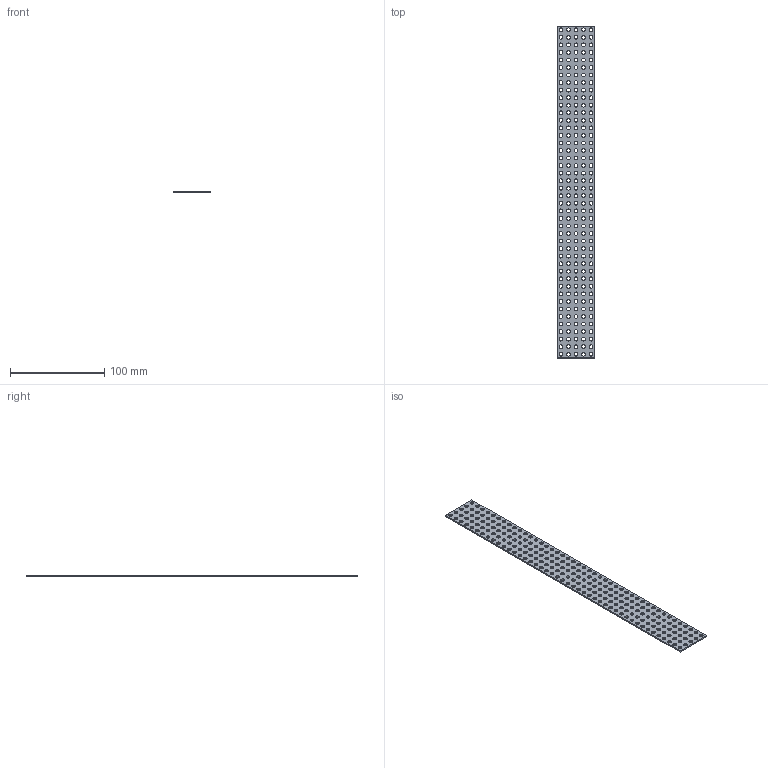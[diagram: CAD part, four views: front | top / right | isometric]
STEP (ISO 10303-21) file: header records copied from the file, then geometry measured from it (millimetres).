
FILE_DESCRIPTION(/* description */ ('STEP AP203'),/* implementation_level */ '2;1');
FILE_NAME(/* name */ '1127-0040-0352.step',/* time_stamp */ '2026-08-27T14:48:24-05:00',/* author */ (''),/* organization */ (''),/* preprocessor_version */ 'ST-DEVELOPER v20.1',/* originating_system */ 'Autodesk Translation Framework v15.8.0.0',/* authorisation */ '');
FILE_SCHEMA (('AUTOMOTIVE_DESIGN { 1 0 10303 214 3 1 1 }'));
Length unit declared in the file: millimetre
Products named in the file (1): 2026-08-27-10-53-43-911
Bounding box: 40 x 352 x 1.5 mm (x, y, z)
Volume: 16973.1 mm3; surface area: 27953.7 mm2
Topology: 1 solids, 1 shells, 226 faces, 672 edges, 448 vertices
Faces by surface type: cylinder 220, plane 6
Full cylindrical faces by diameter (mm): 4 x220
Entity records: 8776 total; most frequent: DIRECTION 1566, CARTESIAN_POINT 1347, ORIENTED_EDGE 1344, EDGE_CURVE 672, AXIS2_PLACEMENT_3D 667, EDGE_LOOP 666, VERTEX_POINT 448, FACE_BOUND 440
